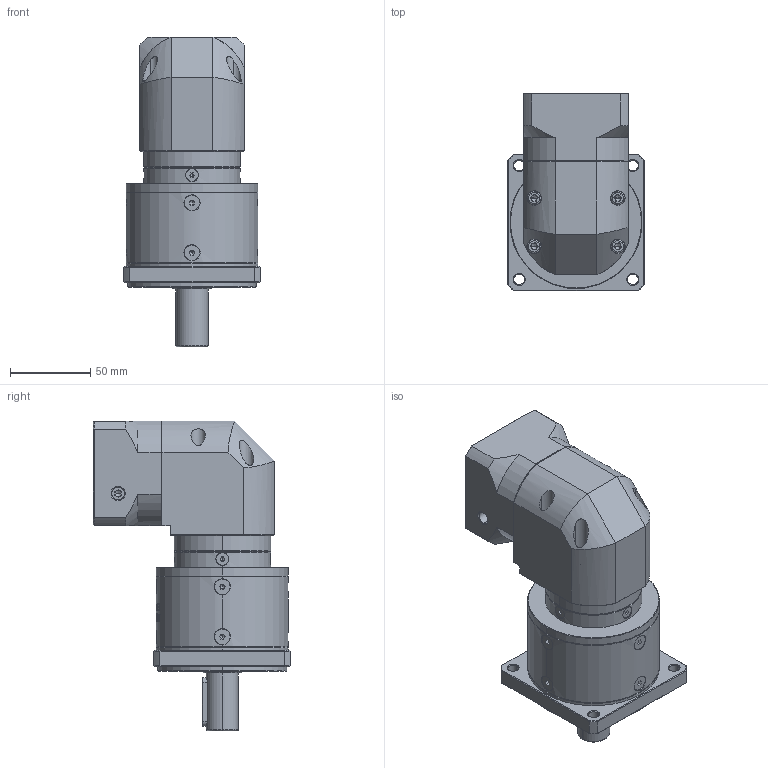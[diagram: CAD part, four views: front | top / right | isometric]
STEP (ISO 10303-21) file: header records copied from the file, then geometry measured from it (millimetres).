
FILE_DESCRIPTION (( 'STEP AP214' ), '1' );
FILE_NAME ('ZFR080-D20-L2-P2-14-60-75-M6.step', '2023-08-25T07:18:33', ( '' ), ( '' ), 'SwSTEP 2.0', 'SolidWorks 2016', '' );
FILE_SCHEMA (( 'AUTOMOTIVE_DESIGN' ));
Length unit declared in the file: millimetre
Products named in the file (1): ZFR080-D20-L2-P2-14-60-75-M6
Bounding box: 85 x 122.7 x 192.5 mm (x, y, z)
Volume: 799271.6 mm3; surface area: 103825.8 mm2
Topology: 17 solids, 18 shells, 2449 faces, 6413 edges, 4079 vertices
Faces by surface type: plane 1176, cylinder 450, bspline 394, cone 381, torus 48
Entity records: 127190 total; most frequent: CARTESIAN_POINT 44760, ORIENTED_EDGE 12734, DIRECTION 9887, EDGE_CURVE 6367, VERTEX_POINT 4079, VECTOR 3375, LINE 3375, AXIS2_PLACEMENT_3D 3256
